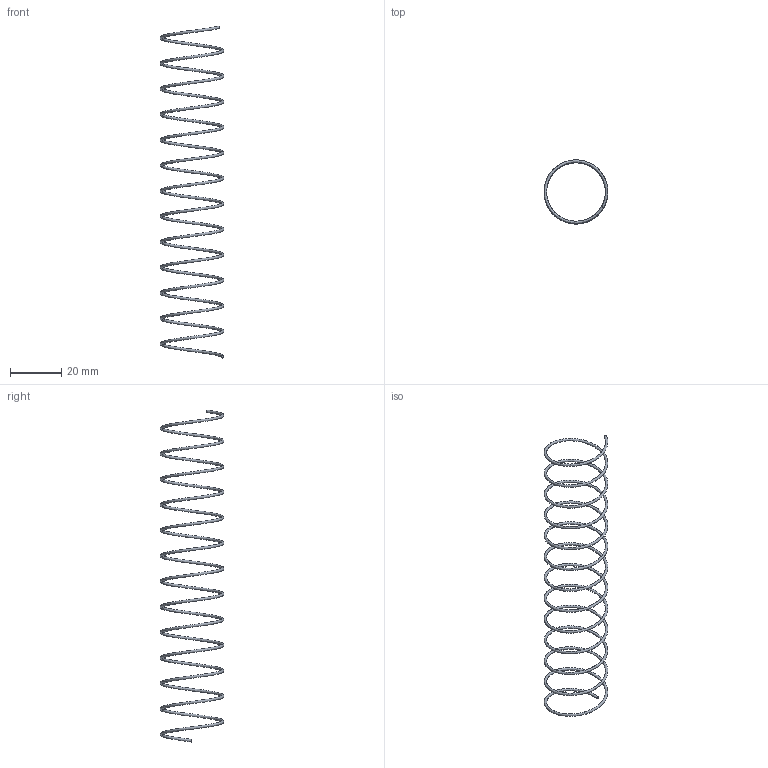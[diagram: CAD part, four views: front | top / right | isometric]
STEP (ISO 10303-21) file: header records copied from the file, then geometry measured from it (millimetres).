
FILE_DESCRIPTION( ( 'STEP AP203' ), '1' );
FILE_NAME( 'D:/Cuma/25 06 2009/D60.01/D60.01_24/D60.01_24130.step', '2003-02-03T13:42:32', ( ' ' ), ( ' ' ), 'XStep 1.0', ' ', ' ' );
FILE_SCHEMA( ( 'CONFIG_CONTROL_DESIGN' ) );
Length unit declared in the file: metre
Products named in the file (1): 1
Bounding box: 25 x 25 x 130.16 mm (x, y, z)
Volume: 757.4 mm3; surface area: 3059.6 mm2
Topology: 1 solids, 1 shells, 3 faces, 3 edges, 2 vertices
Faces by surface type: plane 2, bspline 1
Entity records: 1975 total; most frequent: CARTESIAN_POINT 1893, DIRECTION 6, CC_DESIGN_PERSON_AND_ORGANIZATION_ASSIGNMENT 5, PERSON_AND_ORGANIZATION_ROLE 4, FACE_OUTER_BOUND 4, EDGE_LOOP 4, ORIENTED_EDGE 4, AXIS2_PLACEMENT_3D 3
